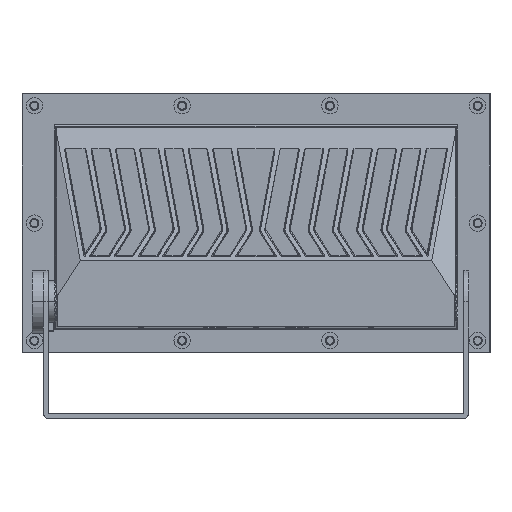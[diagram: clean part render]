
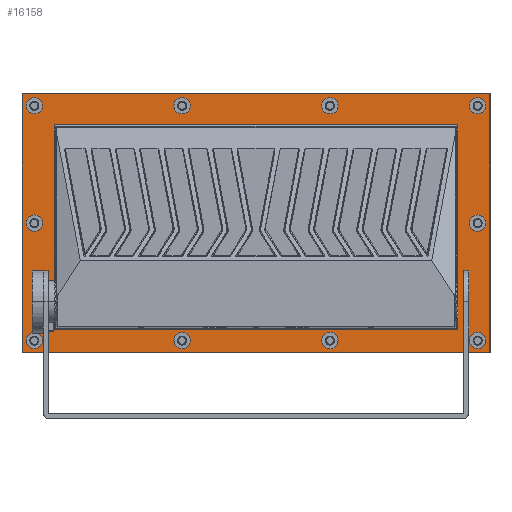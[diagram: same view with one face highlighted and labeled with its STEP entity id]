
A CAD part, top view. The second image highlights one B-rep face of the part: STEP entity #16158.
In plain terms, the highlighted planar face has unit normal (0, 0, 1).
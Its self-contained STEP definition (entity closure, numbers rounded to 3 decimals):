
#373=CARTESIAN_POINT('',(122.983,59.783,8.));
#375=DIRECTION('',(0.,-1.,0.));
#376=VECTOR('',#375,124.766);
#377=CARTESIAN_POINT('',(122.983,59.783,8.));
#378=LINE('',#377,#376);
#379=DIRECTION('',(1.,0.,0.));
#380=VECTOR('',#379,245.965);
#381=CARTESIAN_POINT('',(-122.983,59.783,8.));
#382=LINE('',#381,#380);
#396=DIRECTION('',(-1.,0.,0.));
#397=VECTOR('',#396,284.529);
#398=CARTESIAN_POINT('',(142.264,-78.764,8.));
#399=LINE('',#398,#397);
#400=DIRECTION('',(0.,1.,0.));
#401=VECTOR('',#400,157.529);
#402=CARTESIAN_POINT('',(-142.264,-78.764,8.));
#403=LINE('',#402,#401);
#404=DIRECTION('',(1.,0.,0.));
#405=VECTOR('',#404,284.529);
#406=CARTESIAN_POINT('',(-142.264,78.764,8.));
#407=LINE('',#406,#405);
#408=DIRECTION('',(0.,-1.,0.));
#409=VECTOR('',#408,157.529);
#410=CARTESIAN_POINT('',(142.264,78.764,8.));
#411=LINE('',#410,#409);
#412=CARTESIAN_POINT('',(45.,-71.5,8.));
#413=DIRECTION('',(0.,0.,1.));
#414=DIRECTION('',(1.,0.,0.));
#415=AXIS2_PLACEMENT_3D('',#412,#413,#414);
#417=CARTESIAN_POINT('',(45.,-71.5,8.));
#418=DIRECTION('',(0.,0.,1.));
#419=DIRECTION('',(-1.,0.,0.));
#420=AXIS2_PLACEMENT_3D('',#417,#418,#419);
#422=CARTESIAN_POINT('',(-45.,-71.5,8.));
#423=DIRECTION('',(0.,0.,1.));
#424=DIRECTION('',(1.,0.,0.));
#425=AXIS2_PLACEMENT_3D('',#422,#423,#424);
#427=CARTESIAN_POINT('',(-45.,-71.5,8.));
#428=DIRECTION('',(0.,0.,1.));
#429=DIRECTION('',(-1.,0.,0.));
#430=AXIS2_PLACEMENT_3D('',#427,#428,#429);
#432=CARTESIAN_POINT('',(-45.,71.5,8.));
#433=DIRECTION('',(0.,0.,1.));
#434=DIRECTION('',(-1.,0.,0.));
#435=AXIS2_PLACEMENT_3D('',#432,#433,#434);
#437=CARTESIAN_POINT('',(-45.,71.5,8.));
#438=DIRECTION('',(0.,0.,1.));
#439=DIRECTION('',(1.,0.,0.));
#440=AXIS2_PLACEMENT_3D('',#437,#438,#439);
#442=CARTESIAN_POINT('',(45.,71.5,8.));
#443=DIRECTION('',(0.,0.,1.));
#444=DIRECTION('',(-1.,0.,0.));
#445=AXIS2_PLACEMENT_3D('',#442,#443,#444);
#447=CARTESIAN_POINT('',(45.,71.5,8.));
#448=DIRECTION('',(0.,0.,1.));
#449=DIRECTION('',(1.,0.,0.));
#450=AXIS2_PLACEMENT_3D('',#447,#448,#449);
#452=CARTESIAN_POINT('',(-135.,0.,8.));
#453=DIRECTION('',(0.,0.,1.));
#454=DIRECTION('',(-1.,0.,0.));
#455=AXIS2_PLACEMENT_3D('',#452,#453,#454);
#457=CARTESIAN_POINT('',(-135.,0.,8.));
#458=DIRECTION('',(0.,0.,1.));
#459=DIRECTION('',(1.,0.,0.));
#460=AXIS2_PLACEMENT_3D('',#457,#458,#459);
#462=CARTESIAN_POINT('',(135.,71.5,8.));
#463=DIRECTION('',(0.,0.,1.));
#464=DIRECTION('',(-1.,0.,0.));
#465=AXIS2_PLACEMENT_3D('',#462,#463,#464);
#467=CARTESIAN_POINT('',(135.,71.5,8.));
#468=DIRECTION('',(0.,0.,1.));
#469=DIRECTION('',(1.,0.,0.));
#470=AXIS2_PLACEMENT_3D('',#467,#468,#469);
#472=CARTESIAN_POINT('',(135.,0.,8.));
#473=DIRECTION('',(0.,0.,1.));
#474=DIRECTION('',(-1.,0.,0.));
#475=AXIS2_PLACEMENT_3D('',#472,#473,#474);
#477=CARTESIAN_POINT('',(135.,0.,8.));
#478=DIRECTION('',(0.,0.,1.));
#479=DIRECTION('',(1.,0.,0.));
#480=AXIS2_PLACEMENT_3D('',#477,#478,#479);
#482=CARTESIAN_POINT('',(-135.,-71.5,8.));
#483=DIRECTION('',(0.,0.,1.));
#484=DIRECTION('',(-1.,0.,0.));
#485=AXIS2_PLACEMENT_3D('',#482,#483,#484);
#487=CARTESIAN_POINT('',(-135.,-71.5,8.));
#488=DIRECTION('',(0.,0.,1.));
#489=DIRECTION('',(1.,0.,0.));
#490=AXIS2_PLACEMENT_3D('',#487,#488,#489);
#492=CARTESIAN_POINT('',(135.,-71.5,8.));
#493=DIRECTION('',(0.,0.,1.));
#494=DIRECTION('',(-1.,0.,0.));
#495=AXIS2_PLACEMENT_3D('',#492,#493,#494);
#497=CARTESIAN_POINT('',(135.,-71.5,8.));
#498=DIRECTION('',(0.,0.,1.));
#499=DIRECTION('',(1.,0.,0.));
#500=AXIS2_PLACEMENT_3D('',#497,#498,#499);
#502=CARTESIAN_POINT('',(-135.,71.5,8.));
#503=DIRECTION('',(0.,0.,1.));
#504=DIRECTION('',(-1.,0.,0.));
#505=AXIS2_PLACEMENT_3D('',#502,#503,#504);
#507=CARTESIAN_POINT('',(-135.,71.5,8.));
#508=DIRECTION('',(0.,0.,1.));
#509=DIRECTION('',(1.,0.,0.));
#510=AXIS2_PLACEMENT_3D('',#507,#508,#509);
#5075=DIRECTION('',(-1.,0.,0.));
#5076=VECTOR('',#5075,245.965);
#5077=CARTESIAN_POINT('',(122.983,-64.983,8.));
#5078=LINE('',#5077,#5076);
#5079=DIRECTION('',(0.,1.,0.));
#5080=VECTOR('',#5079,124.766);
#5081=CARTESIAN_POINT('',(-122.983,-64.983,8.));
#5082=LINE('',#5081,#5080);
#13007=VERTEX_POINT('',#373);
#13008=CARTESIAN_POINT('',(122.983,-64.983,8.));
#13009=VERTEX_POINT('',#13008);
#13010=CARTESIAN_POINT('',(-122.983,59.783,8.));
#13011=VERTEX_POINT('',#13010);
#13014=CARTESIAN_POINT('',(142.264,-78.764,8.));
#13015=CARTESIAN_POINT('',(-142.264,-78.764,8.));
#13016=VERTEX_POINT('',#13014);
#13017=VERTEX_POINT('',#13015);
#13018=CARTESIAN_POINT('',(-142.264,78.764,8.));
#13019=VERTEX_POINT('',#13018);
#13020=CARTESIAN_POINT('',(142.264,78.764,8.));
#13021=VERTEX_POINT('',#13020);
#13022=CARTESIAN_POINT('',(50.,-71.5,8.));
#13023=CARTESIAN_POINT('',(40.,-71.5,8.));
#13024=VERTEX_POINT('',#13022);
#13025=VERTEX_POINT('',#13023);
#13026=CARTESIAN_POINT('',(-40.,-71.5,8.));
#13027=CARTESIAN_POINT('',(-50.,-71.5,8.));
#13028=VERTEX_POINT('',#13026);
#13029=VERTEX_POINT('',#13027);
#13030=CARTESIAN_POINT('',(-50.,71.5,8.));
#13031=CARTESIAN_POINT('',(-40.,71.5,8.));
#13032=VERTEX_POINT('',#13030);
#13033=VERTEX_POINT('',#13031);
#13034=CARTESIAN_POINT('',(40.,71.5,8.));
#13035=CARTESIAN_POINT('',(50.,71.5,8.));
#13036=VERTEX_POINT('',#13034);
#13037=VERTEX_POINT('',#13035);
#13038=CARTESIAN_POINT('',(-140.,0.,8.));
#13039=CARTESIAN_POINT('',(-130.,0.,8.));
#13040=VERTEX_POINT('',#13038);
#13041=VERTEX_POINT('',#13039);
#13042=CARTESIAN_POINT('',(130.,71.5,8.));
#13043=CARTESIAN_POINT('',(140.,71.5,8.));
#13044=VERTEX_POINT('',#13042);
#13045=VERTEX_POINT('',#13043);
#13046=CARTESIAN_POINT('',(130.,0.,8.));
#13047=CARTESIAN_POINT('',(140.,0.,8.));
#13048=VERTEX_POINT('',#13046);
#13049=VERTEX_POINT('',#13047);
#13050=CARTESIAN_POINT('',(-140.,-71.5,8.));
#13051=CARTESIAN_POINT('',(-130.,-71.5,8.));
#13052=VERTEX_POINT('',#13050);
#13053=VERTEX_POINT('',#13051);
#13054=CARTESIAN_POINT('',(130.,-71.5,8.));
#13055=CARTESIAN_POINT('',(140.,-71.5,8.));
#13056=VERTEX_POINT('',#13054);
#13057=VERTEX_POINT('',#13055);
#13058=CARTESIAN_POINT('',(-140.,71.5,8.));
#13059=CARTESIAN_POINT('',(-130.,71.5,8.));
#13060=VERTEX_POINT('',#13058);
#13061=VERTEX_POINT('',#13059);
#13062=CARTESIAN_POINT('',(-122.983,-64.983,8.));
#13063=VERTEX_POINT('',#13062);
#16075=CARTESIAN_POINT('',(0.,0.,8.));
#16076=DIRECTION('',(0.,0.,1.));
#16077=DIRECTION('',(1.,0.,0.));
#16078=AXIS2_PLACEMENT_3D('',#16075,#16076,#16077);
#16079=PLANE('',#16078);
#16081=ORIENTED_EDGE('',*,*,#16080,.T.);
#16083=ORIENTED_EDGE('',*,*,#16082,.T.);
#16085=ORIENTED_EDGE('',*,*,#16084,.T.);
#16087=ORIENTED_EDGE('',*,*,#16086,.T.);
#16088=EDGE_LOOP('',(#16081,#16083,#16085,#16087));
#16089=FACE_OUTER_BOUND('',#16088,.F.);
#16091=ORIENTED_EDGE('',*,*,#16090,.T.);
#16093=ORIENTED_EDGE('',*,*,#16092,.T.);
#16094=EDGE_LOOP('',(#16091,#16093));
#16095=FACE_BOUND('',#16094,.F.);
#16097=ORIENTED_EDGE('',*,*,#16096,.T.);
#16099=ORIENTED_EDGE('',*,*,#16098,.T.);
#16100=EDGE_LOOP('',(#16097,#16099));
#16101=FACE_BOUND('',#16100,.F.);
#16103=ORIENTED_EDGE('',*,*,#16102,.T.);
#16105=ORIENTED_EDGE('',*,*,#16104,.T.);
#16106=EDGE_LOOP('',(#16103,#16105));
#16107=FACE_BOUND('',#16106,.F.);
#16109=ORIENTED_EDGE('',*,*,#16108,.T.);
#16111=ORIENTED_EDGE('',*,*,#16110,.T.);
#16112=EDGE_LOOP('',(#16109,#16111));
#16113=FACE_BOUND('',#16112,.F.);
#16115=ORIENTED_EDGE('',*,*,#16114,.T.);
#16117=ORIENTED_EDGE('',*,*,#16116,.T.);
#16118=EDGE_LOOP('',(#16115,#16117));
#16119=FACE_BOUND('',#16118,.F.);
#16121=ORIENTED_EDGE('',*,*,#16120,.T.);
#16123=ORIENTED_EDGE('',*,*,#16122,.T.);
#16124=EDGE_LOOP('',(#16121,#16123));
#16125=FACE_BOUND('',#16124,.F.);
#16127=ORIENTED_EDGE('',*,*,#16126,.T.);
#16129=ORIENTED_EDGE('',*,*,#16128,.T.);
#16130=EDGE_LOOP('',(#16127,#16129));
#16131=FACE_BOUND('',#16130,.F.);
#16133=ORIENTED_EDGE('',*,*,#16132,.T.);
#16135=ORIENTED_EDGE('',*,*,#16134,.T.);
#16136=EDGE_LOOP('',(#16133,#16135));
#16137=FACE_BOUND('',#16136,.F.);
#16139=ORIENTED_EDGE('',*,*,#16138,.T.);
#16141=ORIENTED_EDGE('',*,*,#16140,.T.);
#16142=EDGE_LOOP('',(#16139,#16141));
#16143=FACE_BOUND('',#16142,.F.);
#16145=ORIENTED_EDGE('',*,*,#16144,.T.);
#16147=ORIENTED_EDGE('',*,*,#16146,.T.);
#16148=EDGE_LOOP('',(#16145,#16147));
#16149=FACE_BOUND('',#16148,.F.);
#16150=ORIENTED_EDGE('',*,*,#16065,.F.);
#16152=ORIENTED_EDGE('',*,*,#16151,.F.);
#16154=ORIENTED_EDGE('',*,*,#16153,.F.);
#16155=ORIENTED_EDGE('',*,*,#16053,.F.);
#16156=EDGE_LOOP('',(#16150,#16152,#16154,#16155));
#16157=FACE_BOUND('',#16156,.F.);
#16158=ADVANCED_FACE('',(#16089,#16095,#16101,#16107,#16113,#16119,#16125,
#16131,#16137,#16143,#16149,#16157),#16079,.T.);
#416=CIRCLE('',#415,5.);
#421=CIRCLE('',#420,5.);
#426=CIRCLE('',#425,5.);
#431=CIRCLE('',#430,5.);
#436=CIRCLE('',#435,5.);
#441=CIRCLE('',#440,5.);
#446=CIRCLE('',#445,5.);
#451=CIRCLE('',#450,5.);
#456=CIRCLE('',#455,5.);
#461=CIRCLE('',#460,5.);
#466=CIRCLE('',#465,5.);
#471=CIRCLE('',#470,5.);
#476=CIRCLE('',#475,5.);
#481=CIRCLE('',#480,5.);
#486=CIRCLE('',#485,5.);
#491=CIRCLE('',#490,5.);
#496=CIRCLE('',#495,5.);
#501=CIRCLE('',#500,5.);
#506=CIRCLE('',#505,5.);
#511=CIRCLE('',#510,5.);
#16053=EDGE_CURVE('',#13007,#13009,#378,.T.);
#16065=EDGE_CURVE('',#13011,#13007,#382,.T.);
#16080=EDGE_CURVE('',#13016,#13017,#399,.T.);
#16082=EDGE_CURVE('',#13017,#13019,#403,.T.);
#16084=EDGE_CURVE('',#13019,#13021,#407,.T.);
#16086=EDGE_CURVE('',#13021,#13016,#411,.T.);
#16090=EDGE_CURVE('',#13024,#13025,#416,.T.);
#16092=EDGE_CURVE('',#13025,#13024,#421,.T.);
#16096=EDGE_CURVE('',#13028,#13029,#426,.T.);
#16098=EDGE_CURVE('',#13029,#13028,#431,.T.);
#16102=EDGE_CURVE('',#13032,#13033,#436,.T.);
#16104=EDGE_CURVE('',#13033,#13032,#441,.T.);
#16108=EDGE_CURVE('',#13036,#13037,#446,.T.);
#16110=EDGE_CURVE('',#13037,#13036,#451,.T.);
#16114=EDGE_CURVE('',#13040,#13041,#456,.T.);
#16116=EDGE_CURVE('',#13041,#13040,#461,.T.);
#16120=EDGE_CURVE('',#13044,#13045,#466,.T.);
#16122=EDGE_CURVE('',#13045,#13044,#471,.T.);
#16126=EDGE_CURVE('',#13048,#13049,#476,.T.);
#16128=EDGE_CURVE('',#13049,#13048,#481,.T.);
#16132=EDGE_CURVE('',#13052,#13053,#486,.T.);
#16134=EDGE_CURVE('',#13053,#13052,#491,.T.);
#16138=EDGE_CURVE('',#13056,#13057,#496,.T.);
#16140=EDGE_CURVE('',#13057,#13056,#501,.T.);
#16144=EDGE_CURVE('',#13060,#13061,#506,.T.);
#16146=EDGE_CURVE('',#13061,#13060,#511,.T.);
#16151=EDGE_CURVE('',#13063,#13011,#5082,.T.);
#16153=EDGE_CURVE('',#13009,#13063,#5078,.T.);
